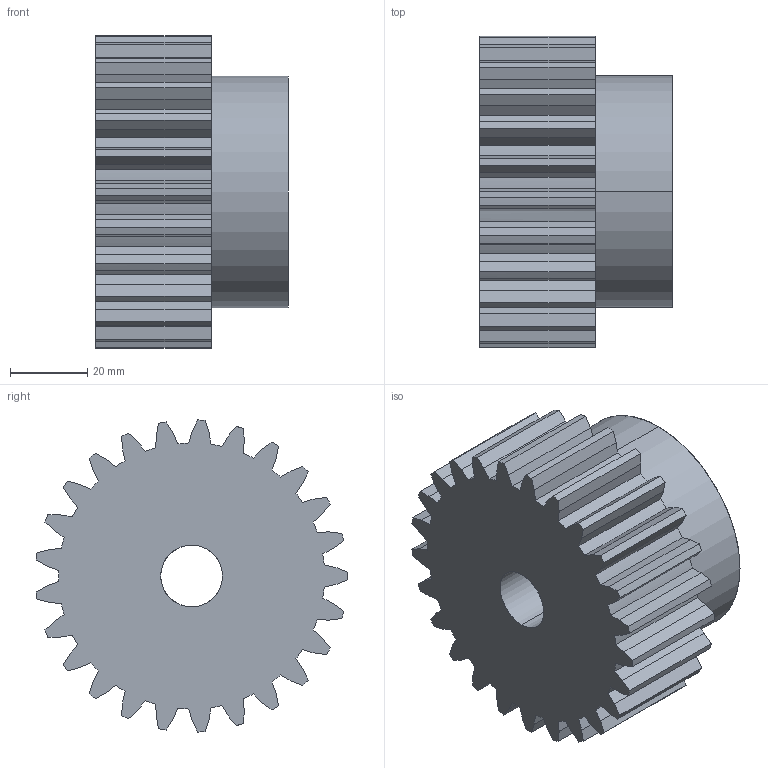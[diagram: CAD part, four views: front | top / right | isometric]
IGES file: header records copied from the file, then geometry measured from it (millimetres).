
Start section: SolidWorks IGES file using analytic representation for surfaces
Global section: file name: C:\Users\Honza\Desktop\Matis (Hotove)\Èelní ozubená kola\PM\MODUL 3\PM 30025.IGS; native system: SolidWorks 2010; preprocessor: SolidWorks 2010; author: Honza; date: 130925.154724; units: millimetre
Bounding box: 50 x 80.79 x 80.94 mm (x, y, z)
Surface area: 27885.3 mm2 (no closed solid volume)
Topology: 0 solids, 0 shells, 157 faces, 1109 edges, 1109 vertices
Faces by surface type: bspline 103, revolution 54
